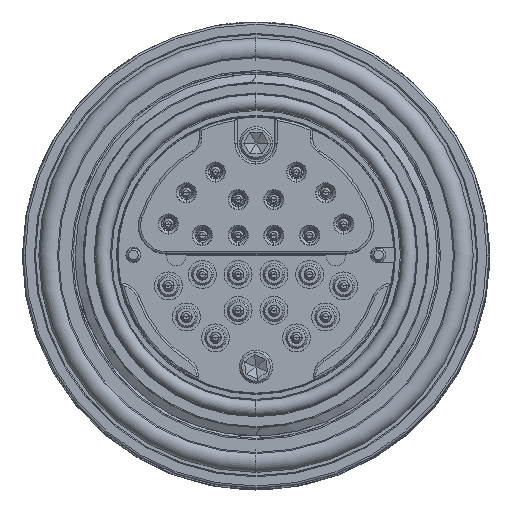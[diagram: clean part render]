
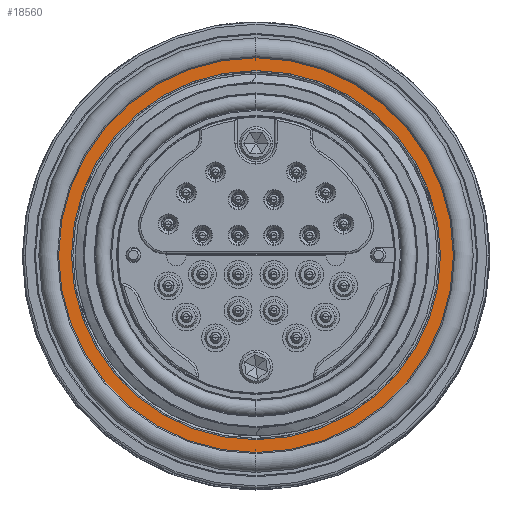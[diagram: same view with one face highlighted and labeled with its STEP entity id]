
A CAD part, top view. The second image highlights one B-rep face of the part: STEP entity #18560.
In plain terms, the highlighted planar face has unit normal (0, 0, 1).
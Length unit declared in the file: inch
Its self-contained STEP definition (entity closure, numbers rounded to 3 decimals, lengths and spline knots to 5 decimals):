
#78 = EDGE_CURVE ( 'NONE', #16355, #4753, #3170, .T. ) ;
#2691 = DIRECTION ( 'NONE',  ( -1., 0., 0. ) ) ;
#2775 = ORIENTED_EDGE ( 'NONE', *, *, #78, .F. ) ;
#3170 = CIRCLE ( 'NONE', #22031, 0.825 ) ;
#3272 = AXIS2_PLACEMENT_3D ( 'NONE', #14582, #7473, #30277 ) ;
#3468 = DIRECTION ( 'NONE',  ( 0., 0., 1. ) ) ;
#3951 = CARTESIAN_POINT ( 'NONE',  ( 0.8825, 0., -0.515 ) ) ;
#4753 = VERTEX_POINT ( 'NONE', #23353 ) ;
#5139 = DIRECTION ( 'NONE',  ( 0., 0., 1. ) ) ;
#6352 = EDGE_CURVE ( 'NONE', #4753, #16355, #26388, .T. ) ;
#6411 = CARTESIAN_POINT ( 'NONE',  ( 0., 0., -0.515 ) ) ;
#6684 = EDGE_CURVE ( 'NONE', #7687, #23187, #19981, .T. ) ;
#7473 = DIRECTION ( 'NONE',  ( 0., 0., 1. ) ) ;
#7687 = VERTEX_POINT ( 'NONE', #3951 ) ;
#9217 = CARTESIAN_POINT ( 'NONE',  ( -0.8825, 0., -0.515 ) ) ;
#9942 = FACE_BOUND ( 'NONE', #19089, .T. ) ;
#10778 = ORIENTED_EDGE ( 'NONE', *, *, #6684, .T. ) ;
#10946 = ORIENTED_EDGE ( 'NONE', *, *, #6352, .F. ) ;
#12649 = FACE_OUTER_BOUND ( 'NONE', #30920, .T. ) ;
#12970 = CARTESIAN_POINT ( 'NONE',  ( 0., 0.8825, -0.515 ) ) ;
#13108 = EDGE_CURVE ( 'NONE', #23187, #7687, #22654, .T. ) ;
#14582 = CARTESIAN_POINT ( 'NONE',  ( 0., 0., -0.515 ) ) ;
#16122 = DIRECTION ( 'NONE',  ( 1., 0., 0. ) ) ;
#16345 = CARTESIAN_POINT ( 'NONE',  ( 0.825, 0., -0.515 ) ) ;
#16355 = VERTEX_POINT ( 'NONE', #16345 ) ;
#16732 = AXIS2_PLACEMENT_3D ( 'NONE', #6411, #29533, #19063 ) ;
#17956 = DIRECTION ( 'NONE',  ( 1., 0., 0. ) ) ;
#18560 = ADVANCED_FACE ( 'NONE', ( #9942, #12649 ), #33434, .F. ) ;
#19063 = DIRECTION ( 'NONE',  ( 1., 0., 0. ) ) ;
#19089 = EDGE_LOOP ( 'NONE', ( #2775, #10946 ) ) ;
#19414 = AXIS2_PLACEMENT_3D ( 'NONE', #25727, #5139, #17956 ) ;
#19981 = CIRCLE ( 'NONE', #3272, 0.8825 ) ;
#22031 = AXIS2_PLACEMENT_3D ( 'NONE', #25930, #3468, #16122 ) ;
#22298 = AXIS2_PLACEMENT_3D ( 'NONE', #12970, #28016, #2691 ) ;
#22654 = CIRCLE ( 'NONE', #16732, 0.8825 ) ;
#23187 = VERTEX_POINT ( 'NONE', #9217 ) ;
#23353 = CARTESIAN_POINT ( 'NONE',  ( -0.825, 0., -0.515 ) ) ;
#25727 = CARTESIAN_POINT ( 'NONE',  ( 0., 0., -0.515 ) ) ;
#25930 = CARTESIAN_POINT ( 'NONE',  ( 0., 0., -0.515 ) ) ;
#26388 = CIRCLE ( 'NONE', #19414, 0.825 ) ;
#27281 = ORIENTED_EDGE ( 'NONE', *, *, #13108, .T. ) ;
#28016 = DIRECTION ( 'NONE',  ( 0., 0., -1. ) ) ;
#29533 = DIRECTION ( 'NONE',  ( 0., 0., 1. ) ) ;
#30277 = DIRECTION ( 'NONE',  ( 1., 0., 0. ) ) ;
#30920 = EDGE_LOOP ( 'NONE', ( #10778, #27281 ) ) ;
#33434 = PLANE ( 'NONE',  #22298 ) ;
